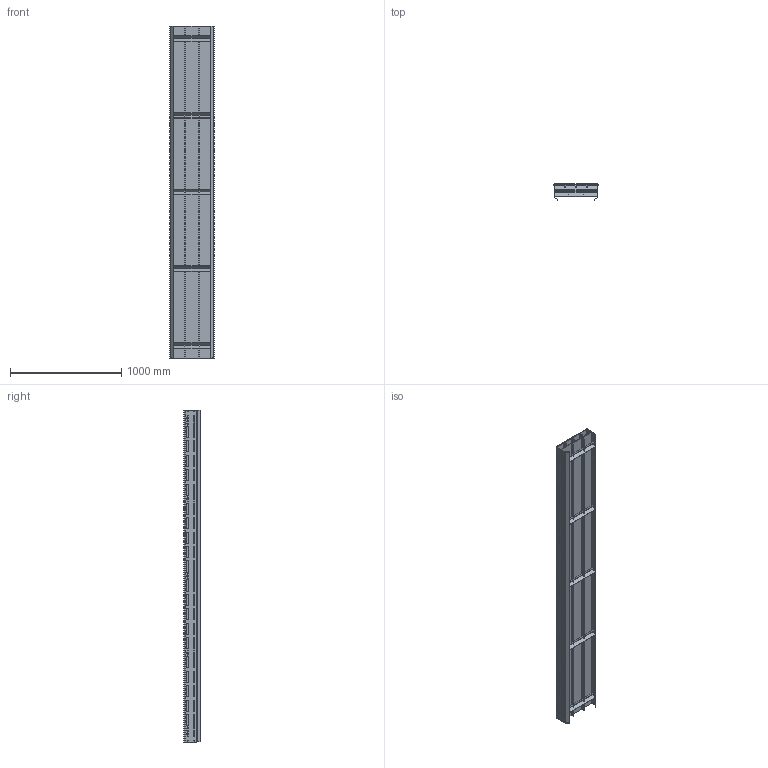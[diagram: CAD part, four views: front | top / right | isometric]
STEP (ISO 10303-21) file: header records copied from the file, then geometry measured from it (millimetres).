
FILE_DESCRIPTION (( 'STEP AP214' ), '1' );
FILE_NAME ('03.102S390.N FS-390-MTS2-100.INOX straight section L=2990.STEP', '2025-02-11T10:21:48', ( '' ), ( '' ), 'SwSTEP 2.0', 'SolidWorks 2024', '' );
FILE_SCHEMA (( 'AUTOMOTIVE_DESIGN' ));
Length unit declared in the file: millimetre
Products named in the file (1): 03.102S390.N FS-390-MTS2-100.INOX straight section L=2990
Bounding box: 396.5 x 145.63 x 2990 mm (x, y, z)
Volume: 25756168.2 mm3; surface area: 9140797.4 mm2
Topology: 21 solids, 21 shells, 1566 faces, 4572 edges, 3048 vertices
Faces by surface type: cylinder 930, plane 636
Entity records: 54131 total; most frequent: DIRECTION 9558, CARTESIAN_POINT 9211, ORIENTED_EDGE 9144, EDGE_CURVE 4572, AXIS2_PLACEMENT_3D 3427, VERTEX_POINT 3048, VECTOR 2704, LINE 2704
